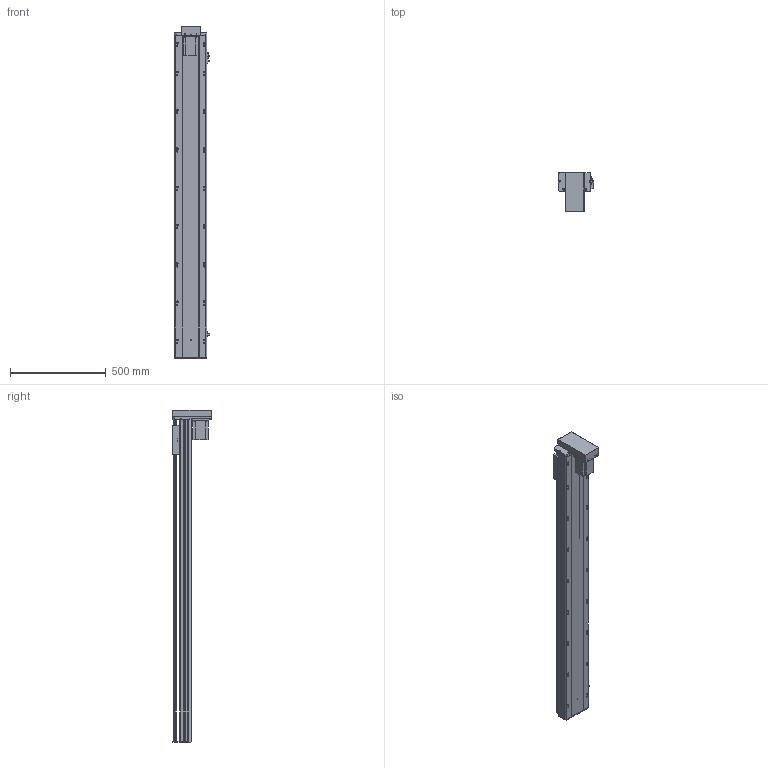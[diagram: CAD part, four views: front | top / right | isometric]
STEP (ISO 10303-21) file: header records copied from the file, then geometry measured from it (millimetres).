
FILE_DESCRIPTION (( 'STEP AP203' ), '1' );
FILE_NAME ('Y170-D10-S1450-BM-P750W.STEP', '2020-01-22T03:31:37', ( '微软用户' ), ( '微软中国' ), 'SwSTEP 2.0', 'SolidWorks 2017', '' );
FILE_SCHEMA (( 'CONFIG_CONTROL_DESIGN' ));
Length unit declared in the file: millimetre
Products named in the file (12): Y170-BM--P750W楊擘啣; -BM俋袗; Y170耜裔--準---; YD-Y100-135-新外置传感挡片(通用）; 170--掛极-BR; Y100-135俋离換覜ん; 侂狟750W; Y170-D10-S1450-BM-P750W; EGH20賑輸_蕼偞; Y雄赽釱-耜蚾; Y170-陔遴奻裔-BR; 170-BM耜蚾蟀諉啣
Assembly tree (14 placements, depth 2):
  Y170-D10-S1450-BM-P750W
    Y170耜裔--準---
    170--掛极-BR
    侂狟750W
    EGH20賑輸_蕼偞  x2
    Y雄赽釱-耜蚾
    Y170-陔遴奻裔-BR
    170-BM耜蚾蟀諉啣
    Y170-BM--P750W楊擘啣
    -BM俋袗
    YD-Y100-135-新外置传感挡片(通用）
    Y100-135俋离換覜ん  x3
Bounding box: 183.5 x 203.5 x 1733.5 mm (x, y, z)
Volume: 7731663.2 mm3; surface area: 2714659.3 mm2
Topology: 14 solids, 14 shells, 942 faces, 2700 edges, 1782 vertices
Faces by surface type: cylinder 490, plane 436, cone 16
Entity records: 30346 total; most frequent: CARTESIAN_POINT 5527, DIRECTION 4984, ORIENTED_EDGE 4896, EDGE_CURVE 2448, AXIS2_PLACEMENT_3D 1779, VERTEX_POINT 1626, LINE 1426, VECTOR 1426
